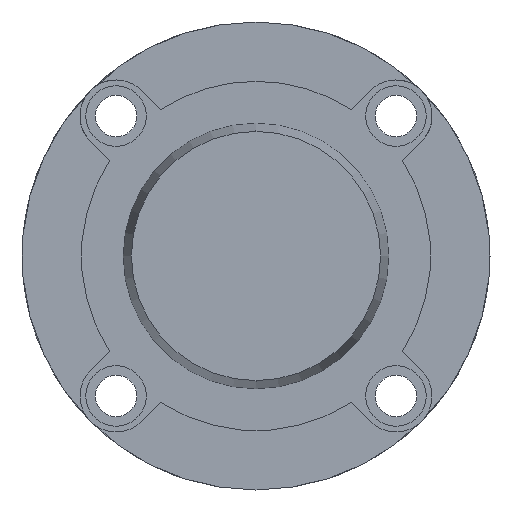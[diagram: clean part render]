
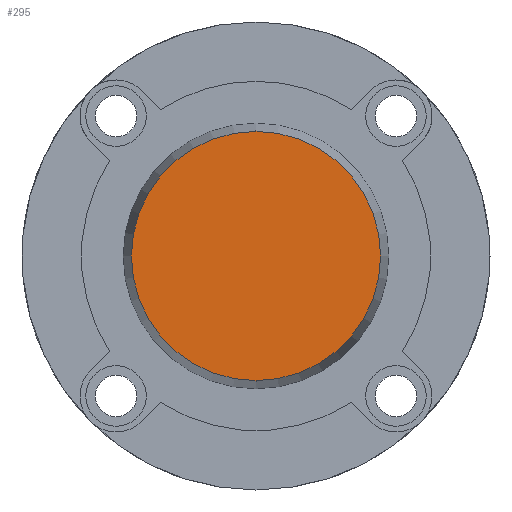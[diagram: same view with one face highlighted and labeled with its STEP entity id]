
A CAD part, left-side view. The second image highlights one B-rep face of the part: STEP entity #295.
In plain terms, the highlighted planar face has unit normal (-1, 0, 0).
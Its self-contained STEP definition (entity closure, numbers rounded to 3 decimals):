
#220 = CARTESIAN_POINT ( 'NONE',  ( -14.5, 0., 0. ) ) ;
#222 = PLANE ( 'NONE',  #787 ) ;
#225 = DIRECTION ( 'NONE',  ( 1., 0., 0. ) ) ;
#226 = DIRECTION ( 'NONE',  ( 0., 0., -1. ) ) ;
#295 = ADVANCED_FACE ( 'NONE', ( #357 ), #222, .F. ) ;
#357 = FACE_OUTER_BOUND ( 'NONE', #1612, .T. ) ;
#444 = VERTEX_POINT ( 'NONE', #1761 ) ;
#447 = VERTEX_POINT ( 'NONE', #1764 ) ;
#726 = AXIS2_PLACEMENT_3D ( 'NONE', #1005, #1006, #1007 ) ;
#752 = AXIS2_PLACEMENT_3D ( 'NONE', #1374, #1375, #1376 ) ;
#787 = AXIS2_PLACEMENT_3D ( 'NONE', #220, #225, #226 ) ;
#850 = EDGE_CURVE ( 'NONE', #447, #444, #1476, .T. ) ;
#903 = EDGE_CURVE ( 'NONE', #444, #447, #1320, .T. ) ;
#1005 = CARTESIAN_POINT ( 'NONE',  ( -14.5, 0., 0. ) ) ;
#1006 = DIRECTION ( 'NONE',  ( -1., 0., 0. ) ) ;
#1007 = DIRECTION ( 'NONE',  ( 0., 0., 1. ) ) ;
#1320 = CIRCLE ( 'NONE', #726, 26.75 ) ;
#1374 = CARTESIAN_POINT ( 'NONE',  ( -14.5, 0., 0. ) ) ;
#1375 = DIRECTION ( 'NONE',  ( -1., 0., 0. ) ) ;
#1376 = DIRECTION ( 'NONE',  ( 0., 0., 1. ) ) ;
#1476 = CIRCLE ( 'NONE', #752, 26.75 ) ;
#1612 = EDGE_LOOP ( 'NONE', ( #1688, #1687 ) ) ;
#1687 = ORIENTED_EDGE ( 'NONE', *, *, #850, .T. ) ;
#1688 = ORIENTED_EDGE ( 'NONE', *, *, #903, .T. ) ;
#1761 = CARTESIAN_POINT ( 'NONE',  ( -14.5, 0., -26.75 ) ) ;
#1764 = CARTESIAN_POINT ( 'NONE',  ( -14.5, 0., 26.75 ) ) ;
